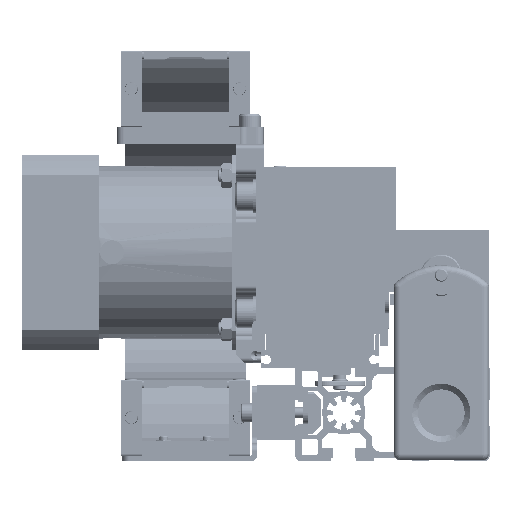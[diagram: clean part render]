
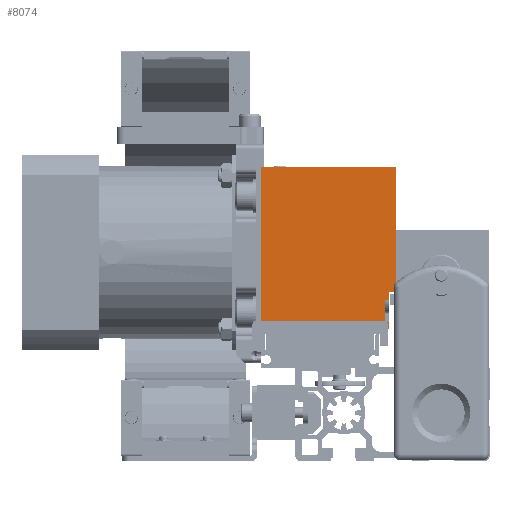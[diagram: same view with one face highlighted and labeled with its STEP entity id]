
A CAD part, front view. The second image highlights one B-rep face of the part: STEP entity #8074.
In plain terms, the highlighted planar face has unit normal (0, -1, 0) as drawn and (1, 0, 0) by its records, which use the part's own axes.
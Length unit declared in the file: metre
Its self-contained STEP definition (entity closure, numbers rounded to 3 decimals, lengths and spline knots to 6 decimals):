
#8074 = ADVANCED_FACE( '', ( #15589 ), #15590, .F. );
#15589 = FACE_OUTER_BOUND( '', #23313, .T. );
#15590 = PLANE( '', #23314 );
#23313 = EDGE_LOOP( '', ( #39501, #39502, #39503, #39504, #39505, #39506, #39507, #39508, #39509, #39510 ) );
#23314 = AXIS2_PLACEMENT_3D( '', #39511, #39512, #39513 );
#39501 = ORIENTED_EDGE( '', *, *, #45743, .F. );
#39502 = ORIENTED_EDGE( '', *, *, #46112, .T. );
#39503 = ORIENTED_EDGE( '', *, *, #48397, .F. );
#39504 = ORIENTED_EDGE( '', *, *, #50431, .T. );
#39505 = ORIENTED_EDGE( '', *, *, #46545, .T. );
#39506 = ORIENTED_EDGE( '', *, *, #49385, .F. );
#39507 = ORIENTED_EDGE( '', *, *, #46978, .F. );
#39508 = ORIENTED_EDGE( '', *, *, #48221, .T. );
#39509 = ORIENTED_EDGE( '', *, *, #45487, .F. );
#39510 = ORIENTED_EDGE( '', *, *, #44099, .F. );
#39511 = CARTESIAN_POINT( '', ( 0.125, -0.030683, 0.07519 ) );
#39512 = DIRECTION( '', ( -1., 0., 0. ) );
#39513 = DIRECTION( '', ( 0., 0., -1. ) );
#44099 = EDGE_CURVE( '', #51736, #51731, #51738, .T. );
#45487 = EDGE_CURVE( '', #51731, #54233, #54234, .T. );
#45743 = EDGE_CURVE( '', #54681, #51736, #54683, .T. );
#46112 = EDGE_CURVE( '', #54681, #55279, #55281, .T. );
#46545 = EDGE_CURVE( '', #56003, #56004, #56005, .T. );
#46978 = EDGE_CURVE( '', #56710, #56712, #56713, .T. );
#48221 = EDGE_CURVE( '', #56710, #54233, #58563, .T. );
#48397 = EDGE_CURVE( '', #58800, #55279, #58801, .T. );
#49385 = EDGE_CURVE( '', #56712, #56004, #60165, .T. );
#50431 = EDGE_CURVE( '', #58800, #56003, #61453, .T. );
#51731 = VERTEX_POINT( '', #62490 );
#51736 = VERTEX_POINT( '', #62497 );
#51738 = LINE( '', #62500, #62501 );
#54233 = VERTEX_POINT( '', #66279 );
#54234 = LINE( '', #66280, #66281 );
#54681 = VERTEX_POINT( '', #66852 );
#54683 = LINE( '', #66854, #66855 );
#55279 = VERTEX_POINT( '', #67805 );
#55281 = LINE( '', #67807, #67808 );
#56003 = VERTEX_POINT( '', #68951 );
#56004 = VERTEX_POINT( '', #68952 );
#56005 = LINE( '', #68953, #68954 );
#56710 = VERTEX_POINT( '', #70113 );
#56712 = VERTEX_POINT( '', #70115 );
#56713 = LINE( '', #70116, #70117 );
#58563 = LINE( '', #72949, #72950 );
#58800 = VERTEX_POINT( '', #73291 );
#58801 = LINE( '', #73292, #73293 );
#60165 = LINE( '', #75479, #75480 );
#61453 = LINE( '', #77398, #77399 );
#62490 = CARTESIAN_POINT( '', ( 0.125, 0.027381, 0.003683 ) );
#62497 = CARTESIAN_POINT( '', ( 0.125, 0.025349, 0.003683 ) );
#62500 = CARTESIAN_POINT( '', ( 0.125, 0.025349, 0.003683 ) );
#62501 = VECTOR( '', #78906, 1. );
#66279 = CARTESIAN_POINT( '', ( 0.125, 0.027381, 0.000889 ) );
#66280 = CARTESIAN_POINT( '', ( 0.125, 0.027381, 0.000635 ) );
#66281 = VECTOR( '', #80752, 1. );
#66852 = CARTESIAN_POINT( '', ( 0.125, 0.025349, 0.014033 ) );
#66854 = CARTESIAN_POINT( '', ( 0.125, 0.025349, 0.007683 ) );
#66855 = VECTOR( '', #81150, 1. );
#67805 = CARTESIAN_POINT( '', ( 0.125, 0.027381, 0.014033 ) );
#67807 = CARTESIAN_POINT( '', ( 0.125, -0.030683, 0.014033 ) );
#67808 = VECTOR( '', #81586, 1. );
#68951 = CARTESIAN_POINT( '', ( 0.125, 0.030683, 0.017526 ) );
#68952 = CARTESIAN_POINT( '', ( 0.125, 0.030683, 0.07519 ) );
#68953 = CARTESIAN_POINT( '', ( 0.125, 0.030683, 0.07519 ) );
#68954 = VECTOR( '', #82128, 1. );
#70113 = CARTESIAN_POINT( '', ( 0.125, -0.031953, 0.000889 ) );
#70115 = CARTESIAN_POINT( '', ( 0.125, -0.031953, 0.07519 ) );
#70116 = CARTESIAN_POINT( '', ( 0.125, -0.031953, 0.07519 ) );
#70117 = VECTOR( '', #82725, 1. );
#72949 = CARTESIAN_POINT( '', ( 0.125, -0.030683, 0.000889 ) );
#72950 = VECTOR( '', #84221, 1. );
#73291 = CARTESIAN_POINT( '', ( 0.125, 0.027381, 0.017526 ) );
#73292 = CARTESIAN_POINT( '', ( 0.125, 0.027381, 0.000635 ) );
#73293 = VECTOR( '', #84397, 1. );
#75479 = CARTESIAN_POINT( '', ( 0.125, -0.030683, 0.07519 ) );
#75480 = VECTOR( '', #85428, 1. );
#77398 = CARTESIAN_POINT( '', ( 0.125, 0.027381, 0.017526 ) );
#77399 = VECTOR( '', #86362, 1. );
#78906 = DIRECTION( '', ( 0., 1., 0. ) );
#80752 = DIRECTION( '', ( 0., 0., -1. ) );
#81150 = DIRECTION( '', ( 0., 0., -1. ) );
#81586 = DIRECTION( '', ( 0., 1., 0. ) );
#82128 = DIRECTION( '', ( 0., 0., 1. ) );
#82725 = DIRECTION( '', ( 0., 0., 1. ) );
#84221 = DIRECTION( '', ( 0., 1., 0. ) );
#84397 = DIRECTION( '', ( 0., 0., -1. ) );
#85428 = DIRECTION( '', ( 0., 1., 0. ) );
#86362 = DIRECTION( '', ( 0., 1., 0. ) );
